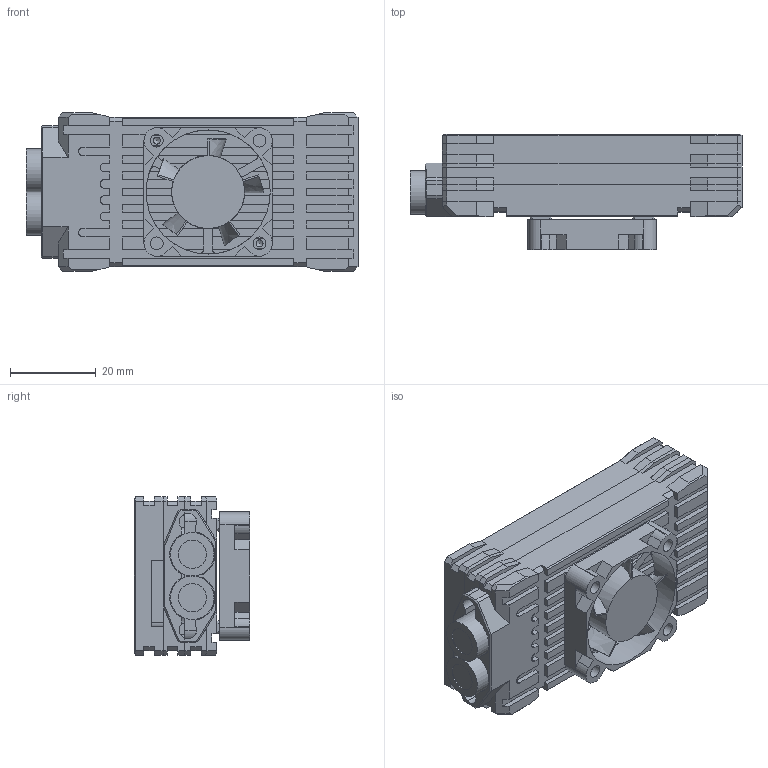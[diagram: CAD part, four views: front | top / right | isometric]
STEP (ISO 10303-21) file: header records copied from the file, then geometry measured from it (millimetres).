
FILE_DESCRIPTION(/* description */ ('','CAx-IF Rec.Pracs.---Representation and Presentation of Product Manufacturing Information (PMI)---4.0---2014-10-13'),/* implementation_level */ '2;1');
FILE_NAME(/* name */ 'Aureus 105 V2 ANL v1.step',/* time_stamp */ '2025-03-14T10:15:54+01:00',/* author */ (''),/* organization */ (''),/* preprocessor_version */ 'ST-DEVELOPER v20',/* originating_system */ 'Autodesk Translation Framework v13.20.0.188',/* authorisation */ '');
FILE_SCHEMA (('AP242_MANAGED_MODEL_BASED_3D_ENGINEERING_MIM_LF { 1 0 10303 442 1 1 4 }'));
Length unit declared in the file: millimetre
Products named in the file (9): Aureus 105 V2 ANL; Elkos; Oberteil; Unterteil; Zwischenteil; Lüfter; 30mm Lüfter; blade & core; Component3
Assembly tree (8 placements, depth 4):
  Aureus 105 V2 ANL
    Elkos
    Oberteil
    Unterteil
    Zwischenteil
    Lüfter
      30mm Lüfter
        blade & core
        Component3
Bounding box: 77.55 x 27 x 37 mm (x, y, z)
Volume: 46016.5 mm3; surface area: 26873.5 mm2
Topology: 7 solids, 8 shells, 642 faces, 1802 edges, 1179 vertices
Faces by surface type: plane 500, cylinder 108, cone 19, bspline 15
Full cylindrical faces by diameter (mm): 0.6 x4, 1.623 x6, 2 x8, 3 x4, 6.6 x2, 10.15 x1, 29 x1
Entity records: 21085 total; most frequent: CARTESIAN_POINT 4123, ORIENTED_EDGE 3590, DIRECTION 3279, EDGE_CURVE 1795, LINE 1485, VECTOR 1485, VERTEX_POINT 1179, AXIS2_PLACEMENT_3D 897
